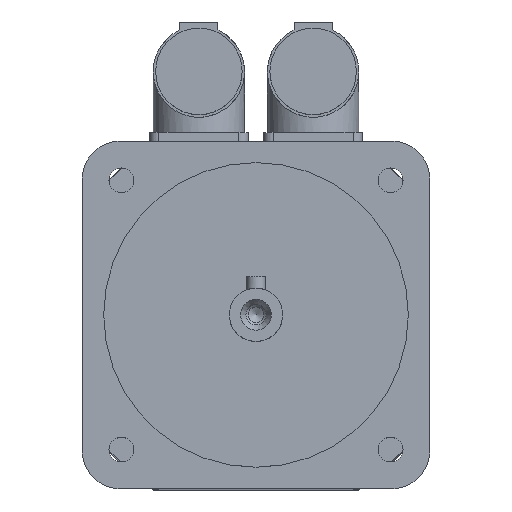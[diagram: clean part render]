
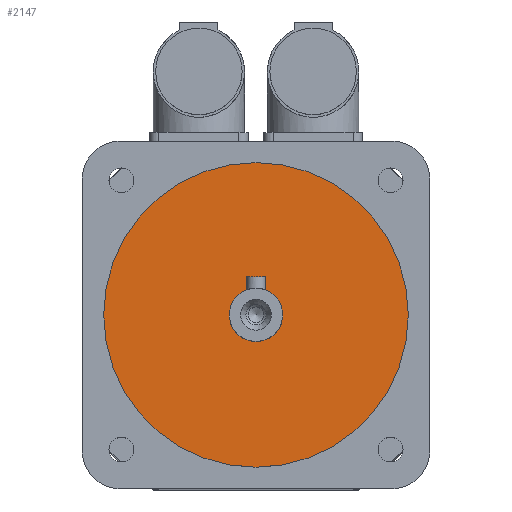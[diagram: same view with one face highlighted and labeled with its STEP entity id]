
A CAD part, top view. The second image highlights one B-rep face of the part: STEP entity #2147.
In plain terms, the highlighted planar face has unit normal (0, 0, 1).
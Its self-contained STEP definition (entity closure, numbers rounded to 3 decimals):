
#364=PLANE('',#2300);
#497=FACE_BOUND('',#679,.T.);
#533=FACE_OUTER_BOUND('',#678,.T.);
#678=EDGE_LOOP('',(#1534));
#679=EDGE_LOOP('',(#1535));
#830=CIRCLE('',#2299,7.);
#831=CIRCLE('',#2301,40.);
#978=VERTEX_POINT('',#3374);
#979=VERTEX_POINT('',#3377);
#1194=EDGE_CURVE('',#978,#978,#830,.T.);
#1195=EDGE_CURVE('',#979,#979,#831,.T.);
#1534=ORIENTED_EDGE('',*,*,#1195,.F.);
#1535=ORIENTED_EDGE('',*,*,#1194,.T.);
#2147=ADVANCED_FACE('',(#533,#497),#364,.T.);
#2299=AXIS2_PLACEMENT_3D('',#3375,#2624,#2625);
#2300=AXIS2_PLACEMENT_3D('',#3376,#2626,#2627);
#2301=AXIS2_PLACEMENT_3D('',#3378,#2628,#2629);
#2624=DIRECTION('center_axis',(0.,0.,-1.));
#2625=DIRECTION('ref_axis',(1.,0.,0.));
#2626=DIRECTION('center_axis',(0.,0.,1.));
#2627=DIRECTION('ref_axis',(1.,0.,0.));
#2628=DIRECTION('center_axis',(0.,0.,-1.));
#2629=DIRECTION('ref_axis',(1.,0.,0.));
#3374=CARTESIAN_POINT('',(0.,7.,151.));
#3375=CARTESIAN_POINT('Origin',(0.,0.,151.));
#3376=CARTESIAN_POINT('Origin',(0.,40.,151.));
#3377=CARTESIAN_POINT('',(0.,40.,151.));
#3378=CARTESIAN_POINT('Origin',(0.,0.,151.));
